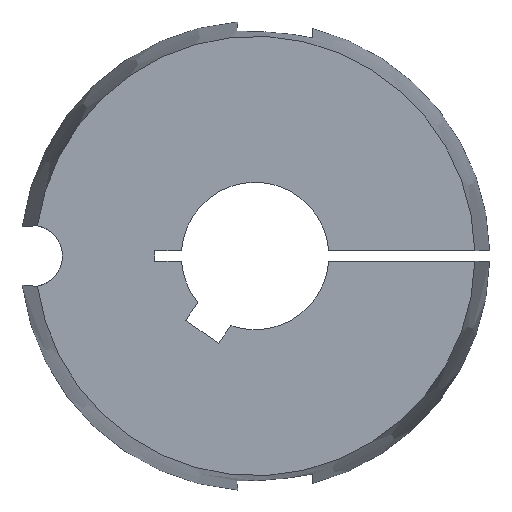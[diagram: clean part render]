
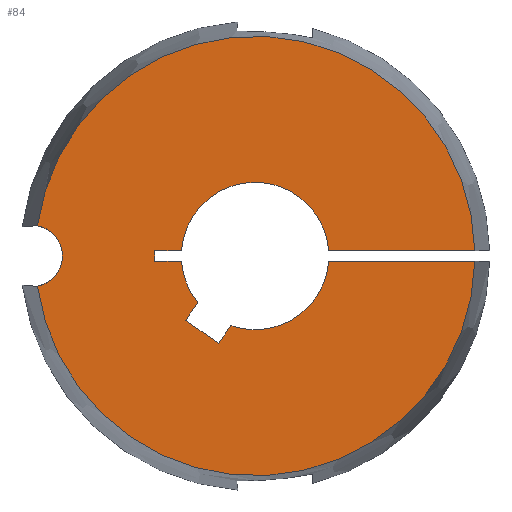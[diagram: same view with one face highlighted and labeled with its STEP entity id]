
A CAD part, left-side view. The second image highlights one B-rep face of the part: STEP entity #84.
In plain terms, the highlighted planar face has unit normal (-1, 0, 0).
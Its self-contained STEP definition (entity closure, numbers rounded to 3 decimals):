
#84 = ADVANCED_FACE( '', ( #114 ), #115, .F. );
#114 = FACE_OUTER_BOUND( '', #154, .T. );
#115 = PLANE( '', #155 );
#154 = EDGE_LOOP( '', ( #251, #252, #253, #254, #255, #256, #257, #258, #259, #260, #261, #262, #263, #264 ) );
#155 = AXIS2_PLACEMENT_3D( '', #265, #266, #267 );
#251 = ORIENTED_EDGE( '', *, *, #349, .T. );
#252 = ORIENTED_EDGE( '', *, *, #381, .F. );
#253 = ORIENTED_EDGE( '', *, *, #352, .T. );
#254 = ORIENTED_EDGE( '', *, *, #365, .T. );
#255 = ORIENTED_EDGE( '', *, *, #363, .T. );
#256 = ORIENTED_EDGE( '', *, *, #360, .T. );
#257 = ORIENTED_EDGE( '', *, *, #369, .T. );
#258 = ORIENTED_EDGE( '', *, *, #382, .T. );
#259 = ORIENTED_EDGE( '', *, *, #383, .T. );
#260 = ORIENTED_EDGE( '', *, *, #384, .T. );
#261 = ORIENTED_EDGE( '', *, *, #385, .T. );
#262 = ORIENTED_EDGE( '', *, *, #386, .T. );
#263 = ORIENTED_EDGE( '', *, *, #354, .T. );
#264 = ORIENTED_EDGE( '', *, *, #387, .F. );
#265 = CARTESIAN_POINT( '', ( -31.8, 0., 0. ) );
#266 = DIRECTION( '', ( 1., 0., 0. ) );
#267 = DIRECTION( '', ( 0., 0., -1. ) );
#349 = EDGE_CURVE( '', #402, #407, #409, .T. );
#352 = EDGE_CURVE( '', #415, #413, #416, .T. );
#354 = EDGE_CURVE( '', #418, #419, #420, .T. );
#360 = EDGE_CURVE( '', #431, #429, #432, .T. );
#363 = EDGE_CURVE( '', #436, #431, #437, .T. );
#365 = EDGE_CURVE( '', #413, #436, #439, .T. );
#369 = EDGE_CURVE( '', #429, #443, #445, .T. );
#381 = EDGE_CURVE( '', #415, #407, #465, .T. );
#382 = EDGE_CURVE( '', #443, #466, #467, .T. );
#383 = EDGE_CURVE( '', #466, #468, #469, .T. );
#384 = EDGE_CURVE( '', #468, #470, #471, .T. );
#385 = EDGE_CURVE( '', #470, #472, #473, .T. );
#386 = EDGE_CURVE( '', #472, #418, #474, .T. );
#387 = EDGE_CURVE( '', #402, #419, #475, .T. );
#402 = VERTEX_POINT( '', #521 );
#407 = VERTEX_POINT( '', #531 );
#409 = CIRCLE( '', #538, 4.6 );
#413 = VERTEX_POINT( '', #543 );
#415 = VERTEX_POINT( '', #546 );
#416 = LINE( '', #547, #548 );
#418 = VERTEX_POINT( '', #556 );
#419 = VERTEX_POINT( '', #557 );
#420 = LINE( '', #558, #559 );
#429 = VERTEX_POINT( '', #577 );
#431 = VERTEX_POINT( '', #580 );
#432 = LINE( '', #581, #582 );
#436 = VERTEX_POINT( '', #588 );
#437 = LINE( '', #589, #590 );
#439 = CIRCLE( '', #593, 11. );
#443 = VERTEX_POINT( '', #598 );
#445 = LINE( '', #601, #602 );
#465 = CIRCLE( '', #625, 32.776 );
#466 = VERTEX_POINT( '', #626 );
#467 = CIRCLE( '', #627, 11. );
#468 = VERTEX_POINT( '', #628 );
#469 = LINE( '', #629, #630 );
#470 = VERTEX_POINT( '', #631 );
#471 = LINE( '', #632, #633 );
#472 = VERTEX_POINT( '', #634 );
#473 = LINE( '', #635, #636 );
#474 = CIRCLE( '', #637, 11. );
#475 = CIRCLE( '', #638, 32.776 );
#521 = CARTESIAN_POINT( '', ( -31.8, 32.464, 4.516 ) );
#531 = CARTESIAN_POINT( '', ( -31.8, 32.464, -4.516 ) );
#538 = AXIS2_PLACEMENT_3D( '', #702, #703, #704 );
#543 = CARTESIAN_POINT( '', ( -31.8, -10.974, -0.75 ) );
#546 = CARTESIAN_POINT( '', ( -31.8, -32.768, -0.75 ) );
#547 = CARTESIAN_POINT( '', ( -31.8, -35., -0.75 ) );
#548 = VECTOR( '', #707, 1000. );
#556 = CARTESIAN_POINT( '', ( -31.8, -10.974, 0.75 ) );
#557 = CARTESIAN_POINT( '', ( -31.8, -32.768, 0.75 ) );
#558 = CARTESIAN_POINT( '', ( -31.8, 0., 0.75 ) );
#559 = VECTOR( '', #708, 1000. );
#577 = CARTESIAN_POINT( '', ( -31.8, 10.373, -9.584 ) );
#580 = CARTESIAN_POINT( '', ( -31.8, 5.458, -13.025 ) );
#581 = CARTESIAN_POINT( '', ( -31.8, 5.458, -13.025 ) );
#582 = VECTOR( '', #713, 1000. );
#588 = CARTESIAN_POINT( '', ( -31.8, 3.613, -10.39 ) );
#589 = CARTESIAN_POINT( '', ( -31.8, 3.613, -10.39 ) );
#590 = VECTOR( '', #716, 1000. );
#593 = AXIS2_PLACEMENT_3D( '', #718, #719, #720 );
#598 = CARTESIAN_POINT( '', ( -31.8, 8.528, -6.948 ) );
#601 = CARTESIAN_POINT( '', ( -31.8, 10.373, -9.584 ) );
#602 = VECTOR( '', #726, 1000. );
#625 = AXIS2_PLACEMENT_3D( '', #754, #755, #756 );
#626 = CARTESIAN_POINT( '', ( -31.8, 10.974, -0.75 ) );
#627 = AXIS2_PLACEMENT_3D( '', #757, #758, #759 );
#628 = CARTESIAN_POINT( '', ( -31.8, 15., -0.75 ) );
#629 = CARTESIAN_POINT( '', ( -31.8, 0., -0.75 ) );
#630 = VECTOR( '', #760, 1000. );
#631 = CARTESIAN_POINT( '', ( -31.8, 15., 0.75 ) );
#632 = CARTESIAN_POINT( '', ( -31.8, 15., -0.75 ) );
#633 = VECTOR( '', #761, 1000. );
#634 = CARTESIAN_POINT( '', ( -31.8, 10.974, 0.75 ) );
#635 = CARTESIAN_POINT( '', ( -31.8, 15., 0.75 ) );
#636 = VECTOR( '', #762, 1000. );
#637 = AXIS2_PLACEMENT_3D( '', #763, #764, #765 );
#638 = AXIS2_PLACEMENT_3D( '', #766, #767, #768 );
#702 = CARTESIAN_POINT( '', ( -31.8, 33.34, 0. ) );
#703 = DIRECTION( '', ( 1., 0., 0. ) );
#704 = DIRECTION( '', ( 0., 1., 0. ) );
#707 = DIRECTION( '', ( 0., 1., 0. ) );
#708 = DIRECTION( '', ( 0., -1., 0. ) );
#713 = DIRECTION( '', ( 0., 0.819, 0.574 ) );
#716 = DIRECTION( '', ( 0., 0.574, -0.819 ) );
#718 = CARTESIAN_POINT( '', ( -31.8, 0., 0. ) );
#719 = DIRECTION( '', ( 1., 0., 0. ) );
#720 = DIRECTION( '', ( 0., 0., -1. ) );
#726 = DIRECTION( '', ( 0., -0.574, 0.819 ) );
#754 = CARTESIAN_POINT( '', ( -31.8, 0., 0. ) );
#755 = DIRECTION( '', ( 1., 0., 0. ) );
#756 = DIRECTION( '', ( 0., 0., -1. ) );
#757 = CARTESIAN_POINT( '', ( -31.8, 0., 0. ) );
#758 = DIRECTION( '', ( 1., 0., 0. ) );
#759 = DIRECTION( '', ( 0., 0., -1. ) );
#760 = DIRECTION( '', ( 0., 1., 0. ) );
#761 = DIRECTION( '', ( 0., 0., 1. ) );
#762 = DIRECTION( '', ( 0., -1., 0. ) );
#763 = CARTESIAN_POINT( '', ( -31.8, 0., 0. ) );
#764 = DIRECTION( '', ( 1., 0., 0. ) );
#765 = DIRECTION( '', ( 0., 0., -1. ) );
#766 = CARTESIAN_POINT( '', ( -31.8, 0., 0. ) );
#767 = DIRECTION( '', ( 1., 0., 0. ) );
#768 = DIRECTION( '', ( 0., 0., -1. ) );
